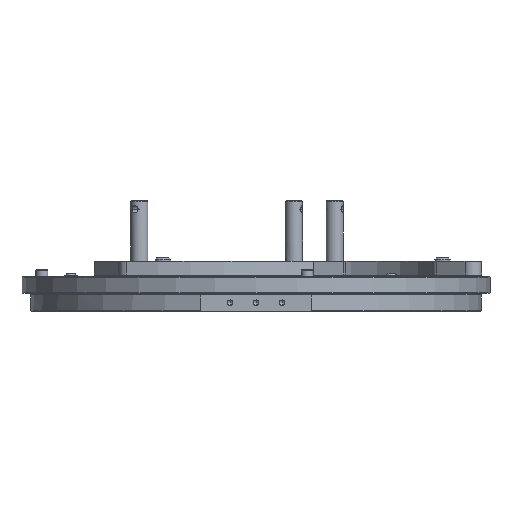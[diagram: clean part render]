
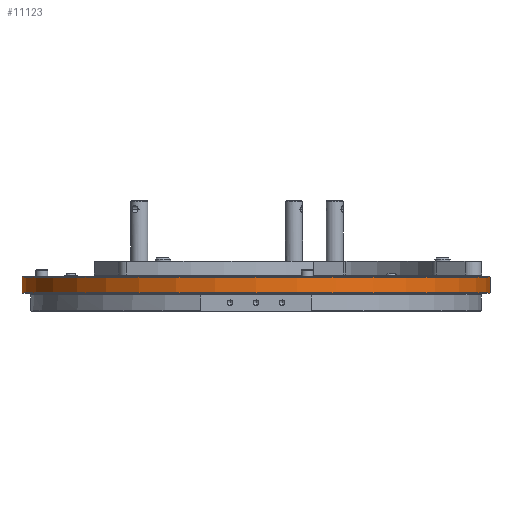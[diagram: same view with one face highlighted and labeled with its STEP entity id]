
A CAD part, front view. The second image highlights one B-rep face of the part: STEP entity #11123.
In plain terms, the highlighted cylindrical face has radius 135 mm (diameter 270 mm), a partial arc.
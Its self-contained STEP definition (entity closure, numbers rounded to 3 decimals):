
#2035 = EDGE_CURVE ( 'NONE', #5272, #5291, #13816, .T. ) ;
#2523 = EDGE_CURVE ( 'NONE', #5284, #5273, #14668, .T. ) ;
#5267 = EDGE_CURVE ( 'NONE', #5284, #5291, #19603, .T. ) ;
#5272 = VERTEX_POINT ( 'NONE', #19594 ) ;
#5273 = VERTEX_POINT ( 'NONE', #19593 ) ;
#5284 = VERTEX_POINT ( 'NONE', #19633 ) ;
#5291 = VERTEX_POINT ( 'NONE', #19625 ) ;
#5334 = EDGE_CURVE ( 'NONE', #5273, #5272, #19718, .T. ) ;
#11123 = ADVANCED_FACE ( 'NONE', ( #30852 ), #30844, .T. ) ;
#11124 = EDGE_LOOP ( 'NONE', ( #11125, #11126, #11127, #11128 ) ) ;
#11125 = ORIENTED_EDGE ( 'NONE', *, *, #5267, .F. ) ;
#11126 = ORIENTED_EDGE ( 'NONE', *, *, #2523, .T. ) ;
#11127 = ORIENTED_EDGE ( 'NONE', *, *, #5334, .T. ) ;
#11128 = ORIENTED_EDGE ( 'NONE', *, *, #2035, .T. ) ;
#13812 = DIRECTION ( 'NONE',  ( 1., 0., 0. ) ) ;
#13813 = DIRECTION ( 'NONE',  ( 0., 0., -1. ) ) ;
#13814 = CARTESIAN_POINT ( 'NONE',  ( 0., 0., 19.6 ) ) ;
#13815 = AXIS2_PLACEMENT_3D ( 'NONE', #13814, #13813, #13812 ) ;
#13816 = CIRCLE ( 'NONE', #13815, 135. ) ;
#14664 = DIRECTION ( 'NONE',  ( 1., 0., 0. ) ) ;
#14665 = DIRECTION ( 'NONE',  ( 0., 0., 1. ) ) ;
#14666 = CARTESIAN_POINT ( 'NONE',  ( 0., 0., 10.9 ) ) ;
#14667 = AXIS2_PLACEMENT_3D ( 'NONE', #14666, #14665, #14664 ) ;
#14668 = CIRCLE ( 'NONE', #14667, 135. ) ;
#19593 = CARTESIAN_POINT ( 'NONE',  ( 135., 0., 10.9 ) ) ;
#19594 = CARTESIAN_POINT ( 'NONE',  ( 135., 0., 19.6 ) ) ;
#19600 = DIRECTION ( 'NONE',  ( 0., 0., 1. ) ) ;
#19601 = VECTOR ( 'NONE', #19600, 1000. ) ;
#19602 = CARTESIAN_POINT ( 'NONE',  ( -135., 0., 10. ) ) ;
#19603 = LINE ( 'NONE', #19602, #19601 ) ;
#19625 = CARTESIAN_POINT ( 'NONE',  ( -135., 0., 19.6 ) ) ;
#19633 = CARTESIAN_POINT ( 'NONE',  ( -135., 0., 10.9 ) ) ;
#19715 = DIRECTION ( 'NONE',  ( 0., 0., 1. ) ) ;
#19716 = VECTOR ( 'NONE', #19715, 1000. ) ;
#19717 = CARTESIAN_POINT ( 'NONE',  ( 135., 0., 10. ) ) ;
#19718 = LINE ( 'NONE', #19717, #19716 ) ;
#30843 = AXIS2_PLACEMENT_3D ( 'NONE', #30851, #30969, #30967 ) ;
#30844 = CYLINDRICAL_SURFACE ( 'NONE', #30843, 135. ) ;
#30851 = CARTESIAN_POINT ( 'NONE',  ( 0., 0., 10. ) ) ;
#30852 = FACE_OUTER_BOUND ( 'NONE', #11124, .T. ) ;
#30967 = DIRECTION ( 'NONE',  ( 1., 0., 0. ) ) ;
#30969 = DIRECTION ( 'NONE',  ( 0., 0., 1. ) ) ;
